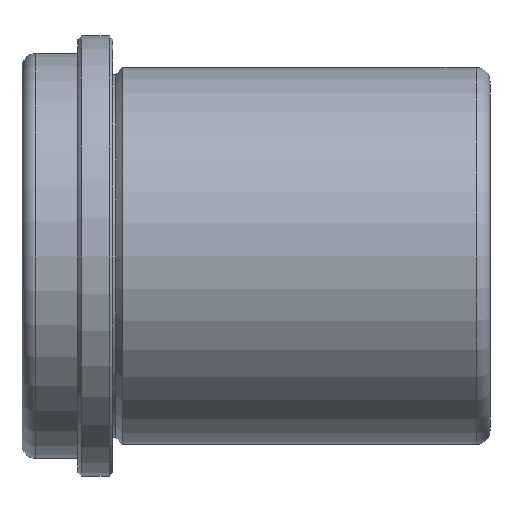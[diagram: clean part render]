
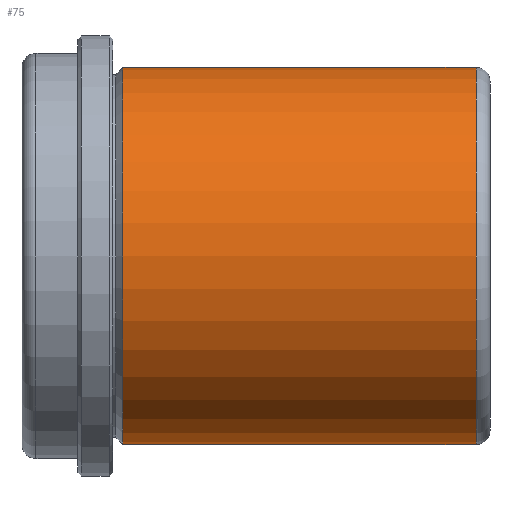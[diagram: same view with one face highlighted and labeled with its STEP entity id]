
A CAD part, front view. The second image highlights one B-rep face of the part: STEP entity #75.
In plain terms, the highlighted cylindrical face has radius 27 mm (diameter 54 mm), a full revolution.
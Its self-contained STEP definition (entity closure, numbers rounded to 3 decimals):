
#75 = ADVANCED_FACE( '', ( #163, #164, #165 ), #166, .T. );
#163 = FACE_OUTER_BOUND( '', #248, .T. );
#164 = FACE_BOUND( '', #249, .T. );
#165 = FACE_OUTER_BOUND( '', #250, .T. );
#166 = CYLINDRICAL_SURFACE( '', #251, 27. );
#248 = EDGE_LOOP( '', ( #359 ) );
#249 = EDGE_LOOP( '', ( #360 ) );
#250 = EDGE_LOOP( '', ( #361 ) );
#251 = AXIS2_PLACEMENT_3D( '', #362, #363, #364 );
#359 = ORIENTED_EDGE( '', *, *, #410, .T. );
#360 = ORIENTED_EDGE( '', *, *, #404, .T. );
#361 = ORIENTED_EDGE( '', *, *, #394, .F. );
#362 = CARTESIAN_POINT( '', ( 54., 0., 0. ) );
#363 = DIRECTION( '', ( -1., 0., 0. ) );
#364 = DIRECTION( '', ( 0., 0., -1. ) );
#394 = EDGE_CURVE( '', #443, #443, #444, .T. );
#404 = EDGE_CURVE( '', #459, #459, #460, .T. );
#410 = EDGE_CURVE( '', #467, #467, #468, .T. );
#443 = VERTEX_POINT( '', #502 );
#444 = CIRCLE( '', #503, 27. );
#459 = VERTEX_POINT( '', #583 );
#460 = B_SPLINE_CURVE_WITH_KNOTS( '', 3, ( #584, #585, #586, #587, #588, #589, #590, #591, #592, #593, #594, #595, #596, #597, #598, #599, #600, #601, #602, #603, #604, #605, #606, #607, #608, #609, #610, #611, #612, #613, #614, #615, #616, #617, #618, #619, #620, #621, #622, #623, #624, #625, #626, #627, #628, #629, #630, #631, #632, #633, #634, #635, #636, #637, #638, #639, #640, #641, #642, #643, #644, #645, #646, #647, #648, #649 ), .UNSPECIFIED., .T., .F., ( 2, 2, 2, 2, 2, 2, 2, 2, 2, 2, 2, 2, 2, 2, 2, 2, 2, 2, 2, 2, 2, 2, 2, 2, 2, 2, 2, 2, 2, 2, 2, 2, 2, 2, 2 ), ( -0.001, 0., 0.001, 0.002, 0.002, 0.003, 0.004, 0.005, 0.005, 0.006, 0.007, 0.008, 0.009, 0.009, 0.01, 0.011, 0.012, 0.013, 0.013, 0.014, 0.015, 0.016, 0.016, 0.017, 0.018, 0.019, 0.02, 0.02, 0.021, 0.022, 0.023, 0.023, 0.024, 0.025, 0.026 ), .UNSPECIFIED. );
#467 = VERTEX_POINT( '', #656 );
#468 = CIRCLE( '', #657, 27. );
#502 = CARTESIAN_POINT( '', ( 52., 0., -27. ) );
#503 = AXIS2_PLACEMENT_3D( '', #694, #695, #696 );
#583 = CARTESIAN_POINT( '', ( 19., 26.702, -4. ) );
#584 = CARTESIAN_POINT( '', ( 18.735, 26.702, -4. ) );
#585 = CARTESIAN_POINT( '', ( 19.265, 26.702, -4. ) );
#586 = CARTESIAN_POINT( '', ( 19.525, 26.706, -3.974 ) );
#587 = CARTESIAN_POINT( '', ( 20.037, 26.721, -3.872 ) );
#588 = CARTESIAN_POINT( '', ( 20.291, 26.732, -3.795 ) );
#589 = CARTESIAN_POINT( '', ( 20.775, 26.76, -3.594 ) );
#590 = CARTESIAN_POINT( '', ( 21.005, 26.776, -3.471 ) );
#591 = CARTESIAN_POINT( '', ( 21.439, 26.812, -3.181 ) );
#592 = CARTESIAN_POINT( '', ( 21.645, 26.832, -3.012 ) );
#593 = CARTESIAN_POINT( '', ( 22.013, 26.871, -2.644 ) );
#594 = CARTESIAN_POINT( '', ( 22.178, 26.89, -2.443 ) );
#595 = CARTESIAN_POINT( '', ( 22.471, 26.926, -2.006 ) );
#596 = CARTESIAN_POINT( '', ( 22.595, 26.943, -1.773 ) );
#597 = CARTESIAN_POINT( '', ( 22.794, 26.97, -1.292 ) );
#598 = CARTESIAN_POINT( '', ( 22.871, 26.981, -1.04 ) );
#599 = CARTESIAN_POINT( '', ( 22.974, 26.996, -0.523 ) );
#600 = CARTESIAN_POINT( '', ( 23., 27., -0.264 ) );
#601 = CARTESIAN_POINT( '', ( 23., 27., 0.259 ) );
#602 = CARTESIAN_POINT( '', ( 22.974, 26.996, 0.524 ) );
#603 = CARTESIAN_POINT( '', ( 22.872, 26.981, 1.038 ) );
#604 = CARTESIAN_POINT( '', ( 22.796, 26.97, 1.287 ) );
#605 = CARTESIAN_POINT( '', ( 22.596, 26.943, 1.772 ) );
#606 = CARTESIAN_POINT( '', ( 22.471, 26.926, 2.006 ) );
#607 = CARTESIAN_POINT( '', ( 22.181, 26.891, 2.439 ) );
#608 = CARTESIAN_POINT( '', ( 22.016, 26.871, 2.641 ) );
#609 = CARTESIAN_POINT( '', ( 21.643, 26.832, 3.014 ) );
#610 = CARTESIAN_POINT( '', ( 21.441, 26.813, 3.179 ) );
#611 = CARTESIAN_POINT( '', ( 21.009, 26.777, 3.469 ) );
#612 = CARTESIAN_POINT( '', ( 20.775, 26.76, 3.594 ) );
#613 = CARTESIAN_POINT( '', ( 20.291, 26.732, 3.795 ) );
#614 = CARTESIAN_POINT( '', ( 20.041, 26.721, 3.871 ) );
#615 = CARTESIAN_POINT( '', ( 19.528, 26.706, 3.974 ) );
#616 = CARTESIAN_POINT( '', ( 19.263, 26.702, 4. ) );
#617 = CARTESIAN_POINT( '', ( 18.74, 26.702, 4. ) );
#618 = CARTESIAN_POINT( '', ( 18.48, 26.706, 3.975 ) );
#619 = CARTESIAN_POINT( '', ( 17.963, 26.721, 3.872 ) );
#620 = CARTESIAN_POINT( '', ( 17.711, 26.732, 3.796 ) );
#621 = CARTESIAN_POINT( '', ( 17.23, 26.76, 3.596 ) );
#622 = CARTESIAN_POINT( '', ( 16.997, 26.776, 3.472 ) );
#623 = CARTESIAN_POINT( '', ( 16.56, 26.812, 3.18 ) );
#624 = CARTESIAN_POINT( '', ( 16.359, 26.832, 3.015 ) );
#625 = CARTESIAN_POINT( '', ( 15.99, 26.871, 2.647 ) );
#626 = CARTESIAN_POINT( '', ( 15.821, 26.89, 2.441 ) );
#627 = CARTESIAN_POINT( '', ( 15.53, 26.926, 2.008 ) );
#628 = CARTESIAN_POINT( '', ( 15.407, 26.942, 1.778 ) );
#629 = CARTESIAN_POINT( '', ( 15.206, 26.97, 1.294 ) );
#630 = CARTESIAN_POINT( '', ( 15.129, 26.981, 1.04 ) );
#631 = CARTESIAN_POINT( '', ( 15.027, 26.996, 0.528 ) );
#632 = CARTESIAN_POINT( '', ( 15., 27., 0.268 ) );
#633 = CARTESIAN_POINT( '', ( 15., 27., -0.261 ) );
#634 = CARTESIAN_POINT( '', ( 15.026, 26.996, -0.521 ) );
#635 = CARTESIAN_POINT( '', ( 15.127, 26.981, -1.033 ) );
#636 = CARTESIAN_POINT( '', ( 15.204, 26.97, -1.288 ) );
#637 = CARTESIAN_POINT( '', ( 15.404, 26.943, -1.772 ) );
#638 = CARTESIAN_POINT( '', ( 15.527, 26.927, -2.001 ) );
#639 = CARTESIAN_POINT( '', ( 15.817, 26.891, -2.437 ) );
#640 = CARTESIAN_POINT( '', ( 15.985, 26.871, -2.642 ) );
#641 = CARTESIAN_POINT( '', ( 16.353, 26.832, -3.011 ) );
#642 = CARTESIAN_POINT( '', ( 16.554, 26.813, -3.176 ) );
#643 = CARTESIAN_POINT( '', ( 16.992, 26.777, -3.469 ) );
#644 = CARTESIAN_POINT( '', ( 17.223, 26.76, -3.593 ) );
#645 = CARTESIAN_POINT( '', ( 17.704, 26.732, -3.793 ) );
#646 = CARTESIAN_POINT( '', ( 17.957, 26.721, -3.871 ) );
#647 = CARTESIAN_POINT( '', ( 18.474, 26.706, -3.974 ) );
#648 = CARTESIAN_POINT( '', ( 18.735, 26.702, -4. ) );
#649 = CARTESIAN_POINT( '', ( 19.265, 26.702, -4. ) );
#656 = CARTESIAN_POINT( '', ( 1.414, 0., -27. ) );
#657 = AXIS2_PLACEMENT_3D( '', #712, #713, #714 );
#694 = CARTESIAN_POINT( '', ( 52., 0., 0. ) );
#695 = DIRECTION( '', ( 1., 0., 0. ) );
#696 = DIRECTION( '', ( 0., 0., -1. ) );
#712 = CARTESIAN_POINT( '', ( 1.414, 0., 0. ) );
#713 = DIRECTION( '', ( 1., 0., 0. ) );
#714 = DIRECTION( '', ( 0., 0., -1. ) );
